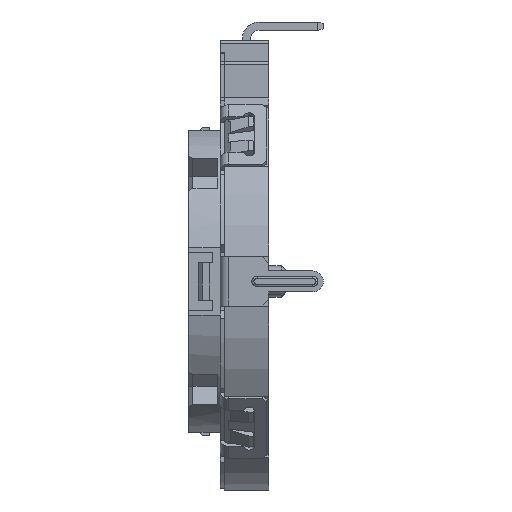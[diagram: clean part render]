
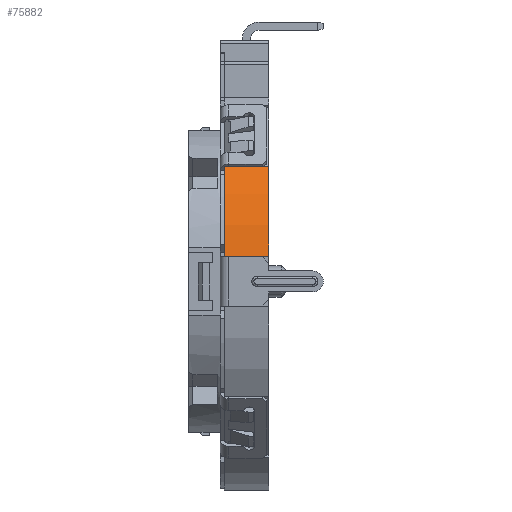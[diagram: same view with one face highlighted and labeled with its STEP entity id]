
A CAD part, left-side view. The second image highlights one B-rep face of the part: STEP entity #75882.
In plain terms, the highlighted cylindrical face has radius 10 mm (diameter 20 mm), a partial arc.
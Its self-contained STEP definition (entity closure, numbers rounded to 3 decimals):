
#2632 = EDGE_LOOP ( 'NONE', ( #62870, #9904, #74241, #54990 ) ) ;
#5984 = CARTESIAN_POINT ( 'NONE',  ( -8.359, 0., 5.488 ) ) ;
#9339 = VERTEX_POINT ( 'NONE', #5984 ) ;
#9904 = ORIENTED_EDGE ( 'NONE', *, *, #78988, .T. ) ;
#10113 = DIRECTION ( 'NONE',  ( 0., 1., 0. ) ) ;
#10484 = DIRECTION ( 'NONE',  ( 0., 0., -1. ) ) ;
#11938 = DIRECTION ( 'NONE',  ( 0., 0., 1. ) ) ;
#19184 = CARTESIAN_POINT ( 'NONE',  ( -8.359, 2.1, 5.488 ) ) ;
#20324 = VERTEX_POINT ( 'NONE', #19184 ) ;
#27757 = EDGE_CURVE ( 'NONE', #9339, #20324, #56835, .T. ) ;
#34414 = DIRECTION ( 'NONE',  ( 0., 1., 0. ) ) ;
#36874 = AXIS2_PLACEMENT_3D ( 'NONE', #73951, #51259, #10484 ) ;
#38830 = CARTESIAN_POINT ( 'NONE',  ( 0., 2.1, 0. ) ) ;
#40129 = VECTOR ( 'NONE', #68392, 1000. ) ;
#45708 = FACE_OUTER_BOUND ( 'NONE', #2632, .T. ) ;
#49898 = DIRECTION ( 'NONE',  ( 0., 1., 0. ) ) ;
#51259 = DIRECTION ( 'NONE',  ( 0., -1., 0. ) ) ;
#52483 = AXIS2_PLACEMENT_3D ( 'NONE', #83938, #34414, #64000 ) ;
#54990 = ORIENTED_EDGE ( 'NONE', *, *, #27757, .T. ) ;
#56835 = LINE ( 'NONE', #77233, #66492 ) ;
#58652 = CARTESIAN_POINT ( 'NONE',  ( -9.928, 2.1, 1.2 ) ) ;
#60986 = LINE ( 'NONE', #63145, #40129 ) ;
#62378 = EDGE_CURVE ( 'NONE', #89068, #9339, #82040, .T. ) ;
#62870 = ORIENTED_EDGE ( 'NONE', *, *, #87164, .F. ) ;
#63145 = CARTESIAN_POINT ( 'NONE',  ( -9.928, 2.1, 1.2 ) ) ;
#63907 = CARTESIAN_POINT ( 'NONE',  ( -9.928, 0., 1.2 ) ) ;
#64000 = DIRECTION ( 'NONE',  ( 0., 0., 1. ) ) ;
#66492 = VECTOR ( 'NONE', #49898, 1000. ) ;
#68392 = DIRECTION ( 'NONE',  ( 0., -1., 0. ) ) ;
#70353 = VERTEX_POINT ( 'NONE', #58652 ) ;
#72727 = AXIS2_PLACEMENT_3D ( 'NONE', #38830, #10113, #11938 ) ;
#73951 = CARTESIAN_POINT ( 'NONE',  ( 0., 2.1, 0. ) ) ;
#74241 = ORIENTED_EDGE ( 'NONE', *, *, #62378, .T. ) ;
#75882 = ADVANCED_FACE ( 'NONE', ( #45708 ), #80884, .T. ) ;
#77233 = CARTESIAN_POINT ( 'NONE',  ( -8.359, 2.1, 5.488 ) ) ;
#78988 = EDGE_CURVE ( 'NONE', #70353, #89068, #60986, .T. ) ;
#80884 = CYLINDRICAL_SURFACE ( 'NONE', #36874, 10. ) ;
#82040 = CIRCLE ( 'NONE', #52483, 10. ) ;
#83938 = CARTESIAN_POINT ( 'NONE',  ( 0., 0., 0. ) ) ;
#86178 = CIRCLE ( 'NONE', #72727, 10. ) ;
#87164 = EDGE_CURVE ( 'NONE', #70353, #20324, #86178, .T. ) ;
#89068 = VERTEX_POINT ( 'NONE', #63907 ) ;
